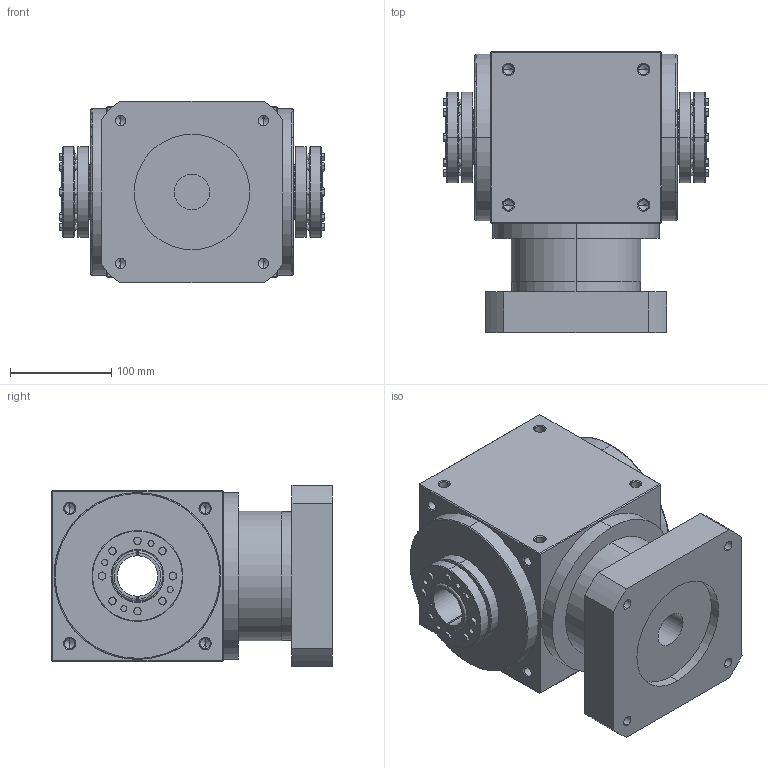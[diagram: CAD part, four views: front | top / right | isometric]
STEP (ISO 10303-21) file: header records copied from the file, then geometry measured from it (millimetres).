
FILE_DESCRIPTION (( 'STEP AP214' ), '1' );
FILE_NAME ('AT170-FC-001 35-114.3-200-M12.STEP', '2024-06-11T02:59:11', ( '微软用户' ), ( '微软中国' ), 'SwSTEP 2.0', 'SolidWorks 2021', '' );
FILE_SCHEMA (( 'AUTOMOTIVE_DESIGN' ));
Length unit declared in the file: millimetre
Products named in the file (3): AT170-FC-001 35-114.3-200-M12; AT170-FC-001-35-114.3-200-M12; 50x90-Z7B
Assembly tree (3 placements, depth 2):
  AT170-FC-001 35-114.3-200-M12
    AT170-FC-001-35-114.3-200-M12
    50x90-Z7B  x2
Bounding box: 261.76 x 278 x 180 mm (x, y, z)
Volume: 7597056.3 mm3; surface area: 406406.1 mm2
Topology: 3 solids, 3 shells, 650 faces, 1582 edges, 940 vertices
Faces by surface type: cylinder 226, cone 220, plane 192, bspline 12
Entity records: 14369 total; most frequent: CARTESIAN_POINT 3404, ORIENTED_EDGE 2192, DIRECTION 2140, EDGE_CURVE 1096, AXIS2_PLACEMENT_3D 840, VERTEX_POINT 668, EDGE_LOOP 544, ADVANCED_FACE 462
